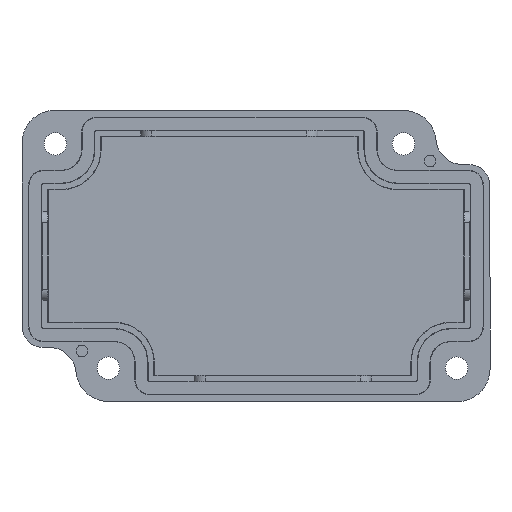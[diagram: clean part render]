
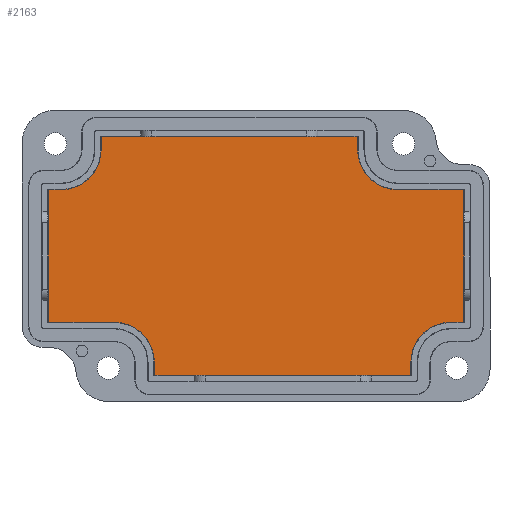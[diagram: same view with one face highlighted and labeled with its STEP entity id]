
A CAD part, front view. The second image highlights one B-rep face of the part: STEP entity #2163.
In plain terms, the highlighted planar face has unit normal (0, -1, 0).
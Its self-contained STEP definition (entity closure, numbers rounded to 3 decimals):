
#27 = EDGE_CURVE ( 'NONE', #2319, #3895, #3745, .T. ) ;
#71 = VERTEX_POINT ( 'NONE', #4222 ) ;
#72 = LINE ( 'NONE', #4928, #3941 ) ;
#112 = CIRCLE ( 'NONE', #3840, 6.768 ) ;
#123 = DIRECTION ( 'NONE',  ( 0., 1., 0. ) ) ;
#145 = VECTOR ( 'NONE', #2962, 1000. ) ;
#155 = ORIENTED_EDGE ( 'NONE', *, *, #3993, .T. ) ;
#208 = VERTEX_POINT ( 'NONE', #2041 ) ;
#250 = DIRECTION ( 'NONE',  ( 0., 0., -1. ) ) ;
#277 = DIRECTION ( 'NONE',  ( -1., 0., 0. ) ) ;
#291 = CARTESIAN_POINT ( 'NONE',  ( -33., 23., 18. ) ) ;
#305 = DIRECTION ( 'NONE',  ( 0., 0., 1. ) ) ;
#344 = LINE ( 'NONE', #4461, #3202 ) ;
#520 = ORIENTED_EDGE ( 'NONE', *, *, #1795, .T. ) ;
#537 = VECTOR ( 'NONE', #277, 1000. ) ;
#552 = CARTESIAN_POINT ( 'NONE',  ( 35.232, 23., -11.284 ) ) ;
#649 = CARTESIAN_POINT ( 'NONE',  ( -24., 23., -18. ) ) ;
#730 = CIRCLE ( 'NONE', #4774, 6.768 ) ;
#774 = DIRECTION ( 'NONE',  ( 0., 0., 1. ) ) ;
#818 = VECTOR ( 'NONE', #1816, 1000. ) ;
#834 = EDGE_CURVE ( 'NONE', #1077, #925, #4545, .T. ) ;
#877 = ORIENTED_EDGE ( 'NONE', *, *, #969, .T. ) ;
#925 = VERTEX_POINT ( 'NONE', #5337 ) ;
#966 = CARTESIAN_POINT ( 'NONE',  ( -35.232, 23., 11.232 ) ) ;
#969 = EDGE_CURVE ( 'NONE', #208, #1338, #72, .T. ) ;
#994 = AXIS2_PLACEMENT_3D ( 'NONE', #649, #1120, #4148 ) ;
#1004 = EDGE_CURVE ( 'NONE', #3829, #4066, #3187, .T. ) ;
#1055 = CARTESIAN_POINT ( 'NONE',  ( -33., 23., 11.232 ) ) ;
#1077 = VERTEX_POINT ( 'NONE', #1584 ) ;
#1081 = VECTOR ( 'NONE', #3542, 1000. ) ;
#1109 = DIRECTION ( 'NONE',  ( -1., 0., 0. ) ) ;
#1120 = DIRECTION ( 'NONE',  ( 0., 1., 0. ) ) ;
#1167 = CARTESIAN_POINT ( 'NONE',  ( 35.284, 23., 11.232 ) ) ;
#1174 = ORIENTED_EDGE ( 'NONE', *, *, #3451, .T. ) ;
#1179 = DIRECTION ( 'NONE',  ( 1., 0., 0. ) ) ;
#1184 = DIRECTION ( 'NONE',  ( 0., 0., -1. ) ) ;
#1266 = ORIENTED_EDGE ( 'NONE', *, *, #4705, .T. ) ;
#1324 = ORIENTED_EDGE ( 'NONE', *, *, #2120, .T. ) ;
#1338 = VERTEX_POINT ( 'NONE', #4429 ) ;
#1357 = LINE ( 'NONE', #552, #818 ) ;
#1475 = VERTEX_POINT ( 'NONE', #2316 ) ;
#1517 = CARTESIAN_POINT ( 'NONE',  ( -33., 23., 11.232 ) ) ;
#1520 = DIRECTION ( 'NONE',  ( -1., 0., 0. ) ) ;
#1551 = ORIENTED_EDGE ( 'NONE', *, *, #27, .T. ) ;
#1584 = CARTESIAN_POINT ( 'NONE',  ( 26.232, 23., -20.232 ) ) ;
#1645 = PLANE ( 'NONE',  #3703 ) ;
#1677 = ORIENTED_EDGE ( 'NONE', *, *, #834, .T. ) ;
#1734 = EDGE_LOOP ( 'NONE', ( #1324, #155, #1738, #3710, #1551, #1266, #4557, #3188, #5145, #520, #5187, #4612, #877, #2217, #1677, #1174 ) ) ;
#1736 = VECTOR ( 'NONE', #3300, 1000. ) ;
#1738 = ORIENTED_EDGE ( 'NONE', *, *, #2638, .T. ) ;
#1743 = VERTEX_POINT ( 'NONE', #3859 ) ;
#1757 = AXIS2_PLACEMENT_3D ( 'NONE', #3034, #123, #3047 ) ;
#1795 = EDGE_CURVE ( 'NONE', #3068, #3829, #3251, .T. ) ;
#1816 = DIRECTION ( 'NONE',  ( 0., 0., 1. ) ) ;
#1996 = VECTOR ( 'NONE', #1184, 1000. ) ;
#2026 = VERTEX_POINT ( 'NONE', #4119 ) ;
#2033 = VECTOR ( 'NONE', #1520, 1000. ) ;
#2041 = CARTESIAN_POINT ( 'NONE',  ( -17.232, 23., -18. ) ) ;
#2074 = CARTESIAN_POINT ( 'NONE',  ( -17.284, 23., -20.232 ) ) ;
#2120 = EDGE_CURVE ( 'NONE', #2026, #71, #4879, .T. ) ;
#2163 = ADVANCED_FACE ( 'NONE', ( #2546 ), #1645, .F. ) ;
#2172 = LINE ( 'NONE', #1055, #2033 ) ;
#2217 = ORIENTED_EDGE ( 'NONE', *, *, #5256, .T. ) ;
#2252 = VERTEX_POINT ( 'NONE', #4195 ) ;
#2266 = CARTESIAN_POINT ( 'NONE',  ( -24., 23., -11.232 ) ) ;
#2316 = CARTESIAN_POINT ( 'NONE',  ( -26.232, 23., 18. ) ) ;
#2319 = VERTEX_POINT ( 'NONE', #3112 ) ;
#2501 = DIRECTION ( 'NONE',  ( 0., 1., 0. ) ) ;
#2530 = VECTOR ( 'NONE', #4533, 1000. ) ;
#2540 = CARTESIAN_POINT ( 'NONE',  ( 17.232, 23., 18. ) ) ;
#2546 = FACE_OUTER_BOUND ( 'NONE', #1734, .T. ) ;
#2560 = EDGE_CURVE ( 'NONE', #1475, #4686, #730, .T. ) ;
#2638 = EDGE_CURVE ( 'NONE', #2252, #1743, #4415, .T. ) ;
#2836 = DIRECTION ( 'NONE',  ( 0., 0., 1. ) ) ;
#2863 = LINE ( 'NONE', #2074, #1736 ) ;
#2908 = CARTESIAN_POINT ( 'NONE',  ( -35.5, 23., 20.5 ) ) ;
#2948 = CARTESIAN_POINT ( 'NONE',  ( 26.232, 23., -20.284 ) ) ;
#2962 = DIRECTION ( 'NONE',  ( 0., 0., 1. ) ) ;
#3034 = CARTESIAN_POINT ( 'NONE',  ( 33., 23., -18. ) ) ;
#3047 = DIRECTION ( 'NONE',  ( 0., 0., 1. ) ) ;
#3068 = VERTEX_POINT ( 'NONE', #966 ) ;
#3090 = CARTESIAN_POINT ( 'NONE',  ( -26.232, 23., 20.284 ) ) ;
#3099 = CARTESIAN_POINT ( 'NONE',  ( -35.232, 23., -11.232 ) ) ;
#3112 = CARTESIAN_POINT ( 'NONE',  ( 17.232, 23., 18. ) ) ;
#3150 = EDGE_CURVE ( 'NONE', #4686, #3068, #2172, .T. ) ;
#3187 = LINE ( 'NONE', #3255, #2530 ) ;
#3188 = ORIENTED_EDGE ( 'NONE', *, *, #2560, .T. ) ;
#3202 = VECTOR ( 'NONE', #1109, 1000. ) ;
#3242 = DIRECTION ( 'NONE',  ( 0., 1., 0. ) ) ;
#3251 = LINE ( 'NONE', #5103, #1996 ) ;
#3255 = CARTESIAN_POINT ( 'NONE',  ( -35.284, 23., -11.232 ) ) ;
#3300 = DIRECTION ( 'NONE',  ( 1., 0., 0. ) ) ;
#3334 = VECTOR ( 'NONE', #305, 1000. ) ;
#3337 = EDGE_CURVE ( 'NONE', #1743, #2319, #112, .T. ) ;
#3451 = EDGE_CURVE ( 'NONE', #925, #2026, #4255, .T. ) ;
#3462 = VERTEX_POINT ( 'NONE', #4349 ) ;
#3542 = DIRECTION ( 'NONE',  ( 0., 0., -1. ) ) ;
#3702 = CARTESIAN_POINT ( 'NONE',  ( 24., 23., 18. ) ) ;
#3703 = AXIS2_PLACEMENT_3D ( 'NONE', #2908, #2501, #774 ) ;
#3710 = ORIENTED_EDGE ( 'NONE', *, *, #3337, .T. ) ;
#3745 = LINE ( 'NONE', #2540, #3334 ) ;
#3829 = VERTEX_POINT ( 'NONE', #3099 ) ;
#3840 = AXIS2_PLACEMENT_3D ( 'NONE', #3702, #5407, #2836 ) ;
#3859 = CARTESIAN_POINT ( 'NONE',  ( 24., 23., 11.232 ) ) ;
#3895 = VERTEX_POINT ( 'NONE', #5057 ) ;
#3941 = VECTOR ( 'NONE', #250, 1000. ) ;
#3993 = EDGE_CURVE ( 'NONE', #71, #2252, #1357, .T. ) ;
#4066 = VERTEX_POINT ( 'NONE', #2266 ) ;
#4104 = CIRCLE ( 'NONE', #994, 6.768 ) ;
#4119 = CARTESIAN_POINT ( 'NONE',  ( 33., 23., -11.232 ) ) ;
#4148 = DIRECTION ( 'NONE',  ( 0., 0., 1. ) ) ;
#4195 = CARTESIAN_POINT ( 'NONE',  ( 35.232, 23., 11.232 ) ) ;
#4222 = CARTESIAN_POINT ( 'NONE',  ( 35.232, 23., -11.232 ) ) ;
#4254 = EDGE_CURVE ( 'NONE', #4066, #208, #4104, .T. ) ;
#4255 = CIRCLE ( 'NONE', #1757, 6.768 ) ;
#4349 = CARTESIAN_POINT ( 'NONE',  ( -26.232, 23., 20.232 ) ) ;
#4415 = LINE ( 'NONE', #1167, #537 ) ;
#4429 = CARTESIAN_POINT ( 'NONE',  ( -17.232, 23., -20.232 ) ) ;
#4461 = CARTESIAN_POINT ( 'NONE',  ( 17.284, 23., 20.232 ) ) ;
#4533 = DIRECTION ( 'NONE',  ( 1., 0., 0. ) ) ;
#4542 = DIRECTION ( 'NONE',  ( 0., 0., 1. ) ) ;
#4545 = LINE ( 'NONE', #2948, #145 ) ;
#4549 = CARTESIAN_POINT ( 'NONE',  ( 33., 23., -11.232 ) ) ;
#4553 = EDGE_CURVE ( 'NONE', #3462, #1475, #5488, .T. ) ;
#4557 = ORIENTED_EDGE ( 'NONE', *, *, #4553, .T. ) ;
#4612 = ORIENTED_EDGE ( 'NONE', *, *, #4254, .T. ) ;
#4686 = VERTEX_POINT ( 'NONE', #1517 ) ;
#4705 = EDGE_CURVE ( 'NONE', #3895, #3462, #344, .T. ) ;
#4774 = AXIS2_PLACEMENT_3D ( 'NONE', #291, #3242, #4542 ) ;
#4879 = LINE ( 'NONE', #4549, #5478 ) ;
#4928 = CARTESIAN_POINT ( 'NONE',  ( -17.232, 23., -18. ) ) ;
#5057 = CARTESIAN_POINT ( 'NONE',  ( 17.232, 23., 20.232 ) ) ;
#5103 = CARTESIAN_POINT ( 'NONE',  ( -35.232, 23., 11.284 ) ) ;
#5145 = ORIENTED_EDGE ( 'NONE', *, *, #3150, .T. ) ;
#5187 = ORIENTED_EDGE ( 'NONE', *, *, #1004, .T. ) ;
#5256 = EDGE_CURVE ( 'NONE', #1338, #1077, #2863, .T. ) ;
#5337 = CARTESIAN_POINT ( 'NONE',  ( 26.232, 23., -18. ) ) ;
#5407 = DIRECTION ( 'NONE',  ( 0., 1., 0. ) ) ;
#5478 = VECTOR ( 'NONE', #1179, 1000. ) ;
#5488 = LINE ( 'NONE', #3090, #1081 ) ;
